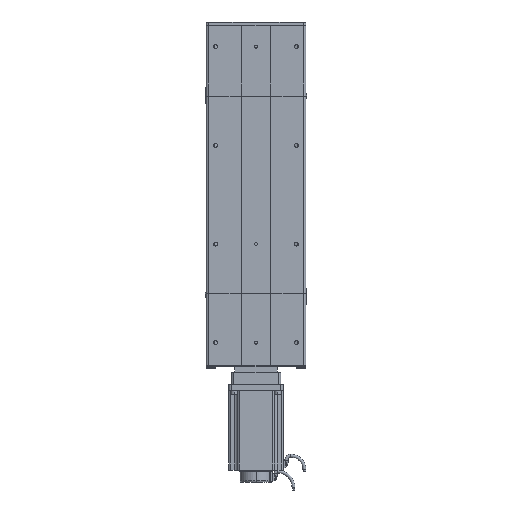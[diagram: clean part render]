
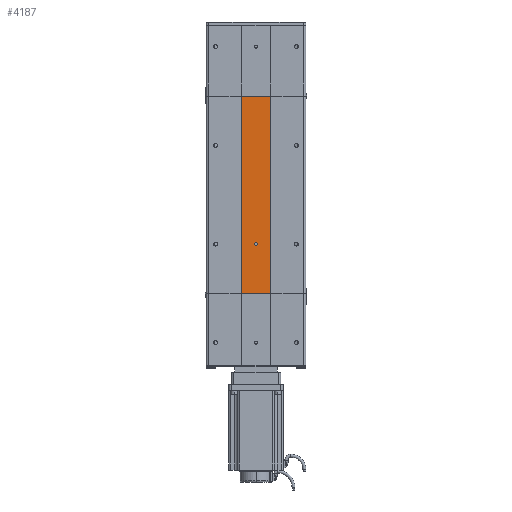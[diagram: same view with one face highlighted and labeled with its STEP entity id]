
A CAD part, front view. The second image highlights one B-rep face of the part: STEP entity #4187.
In plain terms, the highlighted planar face has unit normal (0, -1, 0).
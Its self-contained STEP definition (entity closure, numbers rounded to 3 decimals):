
#3396 = VERTEX_POINT ( 'NONE', #14947 ) ;
#3432 = EDGE_CURVE ( 'NONE', #3396, #3449, #15040, .T. ) ;
#3449 = VERTEX_POINT ( 'NONE', #8678 ) ;
#3610 = VERTEX_POINT ( 'NONE', #9563 ) ;
#3717 = VERTEX_POINT ( 'NONE', #10070 ) ;
#3737 = EDGE_CURVE ( 'NONE', #3717, #3610, #10066, .T. ) ;
#3978 = ORIENTED_EDGE ( 'NONE', *, *, #4046, .T. ) ;
#3979 = ORIENTED_EDGE ( 'NONE', *, *, #4164, .F. ) ;
#4003 = EDGE_LOOP ( 'NONE', ( #4036, #3979, #4056, #3978 ) ) ;
#4007 = ORIENTED_EDGE ( 'NONE', *, *, #21737, .F. ) ;
#4036 = ORIENTED_EDGE ( 'NONE', *, *, #3432, .T. ) ;
#4041 = EDGE_LOOP ( 'NONE', ( #4169, #4007 ) ) ;
#4046 = EDGE_CURVE ( 'NONE', #3717, #3396, #11370, .T. ) ;
#4050 = EDGE_CURVE ( 'NONE', #21597, #21588, #11361, .T. ) ;
#4056 = ORIENTED_EDGE ( 'NONE', *, *, #3737, .F. ) ;
#4164 = EDGE_CURVE ( 'NONE', #3610, #3449, #11474, .T. ) ;
#4169 = ORIENTED_EDGE ( 'NONE', *, *, #4050, .F. ) ;
#4187 = ADVANCED_FACE ( 'NONE', ( #11772, #11865 ), #11792, .F. ) ;
#8678 = CARTESIAN_POINT ( 'NONE',  ( -30., -32.5, 400. ) ) ;
#9563 = CARTESIAN_POINT ( 'NONE',  ( -30., -32.5, 0. ) ) ;
#10014 = DIRECTION ( 'NONE',  ( -1., 0., 0. ) ) ;
#10015 = VECTOR ( 'NONE', #10014, 1000. ) ;
#10016 = CARTESIAN_POINT ( 'NONE',  ( -30., -32.5, 0. ) ) ;
#10066 = LINE ( 'NONE', #10016, #10015 ) ;
#10070 = CARTESIAN_POINT ( 'NONE',  ( 30., -32.5, 0. ) ) ;
#11323 = DIRECTION ( 'NONE',  ( 0., 0., -1. ) ) ;
#11324 = DIRECTION ( 'NONE',  ( 0., -1., 0. ) ) ;
#11325 = CARTESIAN_POINT ( 'NONE',  ( 0., -32.5, 100. ) ) ;
#11326 = AXIS2_PLACEMENT_3D ( 'NONE', #11325, #11324, #11323 ) ;
#11329 = VECTOR ( 'NONE', #11368, 1000. ) ;
#11361 = CIRCLE ( 'NONE', #11326, 3. ) ;
#11368 = DIRECTION ( 'NONE',  ( 0., 0., 1. ) ) ;
#11369 = CARTESIAN_POINT ( 'NONE',  ( 30., -32.5, 0. ) ) ;
#11370 = LINE ( 'NONE', #11369, #11329 ) ;
#11474 = LINE ( 'NONE', #11502, #11496 ) ;
#11495 = DIRECTION ( 'NONE',  ( 0., 0., 1. ) ) ;
#11496 = VECTOR ( 'NONE', #11495, 1000. ) ;
#11502 = CARTESIAN_POINT ( 'NONE',  ( -30., -32.5, 0. ) ) ;
#11771 = CARTESIAN_POINT ( 'NONE',  ( -30., -32.5, 0. ) ) ;
#11772 = FACE_BOUND ( 'NONE', #4041, .T. ) ;
#11792 = PLANE ( 'NONE',  #11863 ) ;
#11862 = DIRECTION ( 'NONE',  ( 0., 0., 1. ) ) ;
#11863 = AXIS2_PLACEMENT_3D ( 'NONE', #11771, #11864, #11862 ) ;
#11864 = DIRECTION ( 'NONE',  ( 0., 1., 0. ) ) ;
#11865 = FACE_OUTER_BOUND ( 'NONE', #4003, .T. ) ;
#14947 = CARTESIAN_POINT ( 'NONE',  ( 30., -32.5, 400. ) ) ;
#15037 = DIRECTION ( 'NONE',  ( -1., 0., 0. ) ) ;
#15039 = CARTESIAN_POINT ( 'NONE',  ( -30., -32.5, 400. ) ) ;
#15040 = LINE ( 'NONE', #15039, #15043 ) ;
#15043 = VECTOR ( 'NONE', #15037, 1000. ) ;
#21588 = VERTEX_POINT ( 'NONE', #69445 ) ;
#21597 = VERTEX_POINT ( 'NONE', #69440 ) ;
#21737 = EDGE_CURVE ( 'NONE', #21588, #21597, #53512, .T. ) ;
#53431 = DIRECTION ( 'NONE',  ( 0., 0., -1. ) ) ;
#53432 = DIRECTION ( 'NONE',  ( 0., -1., 0. ) ) ;
#53433 = CARTESIAN_POINT ( 'NONE',  ( 0., -32.5, 100. ) ) ;
#53512 = CIRCLE ( 'NONE', #53537, 3. ) ;
#53537 = AXIS2_PLACEMENT_3D ( 'NONE', #53433, #53432, #53431 ) ;
#69440 = CARTESIAN_POINT ( 'NONE',  ( 0., -32.5, 97. ) ) ;
#69445 = CARTESIAN_POINT ( 'NONE',  ( 0., -32.5, 103. ) ) ;
